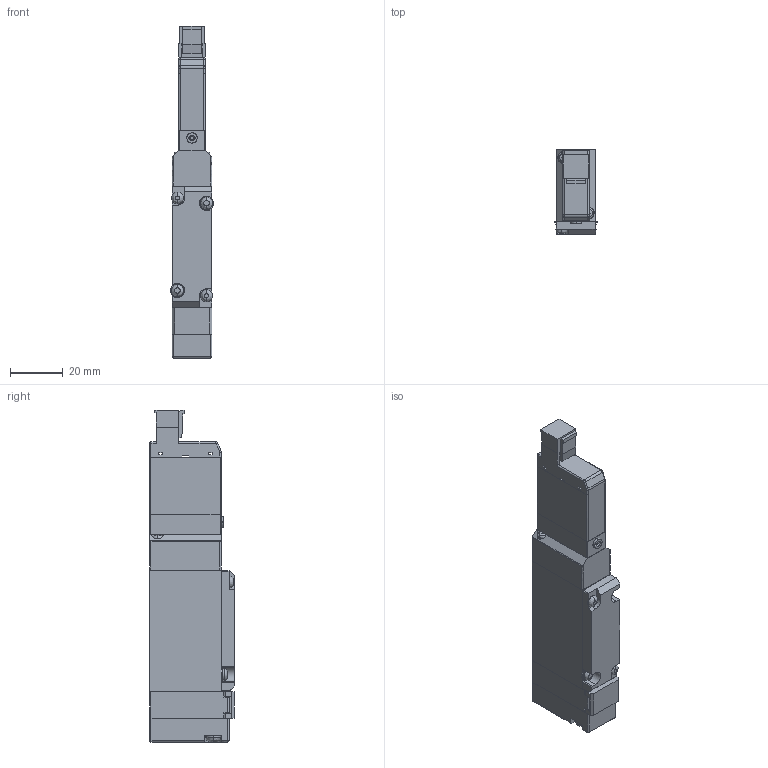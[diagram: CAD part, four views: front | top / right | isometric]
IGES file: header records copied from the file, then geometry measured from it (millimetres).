
Start section: ------------------------------------------------------------------------
Global section: file name: D:\ICADMX\tmp\trans3d_spg\CVICAD02.7120.F15T1-A1-PS_16838.igs; native system: spGate; preprocessor: ver12.6.6; author: Unknown; organization: Unknown; date: 210712.184904; units: millimetre
Bounding box: 16.2 x 32 x 125.5 mm (x, y, z)
Volume: 45494.6 mm3; surface area: 17718.2 mm2
Topology: 7 solids, 7 shells, 368 faces, 972 edges, 623 vertices
Faces by surface type: bspline 368
